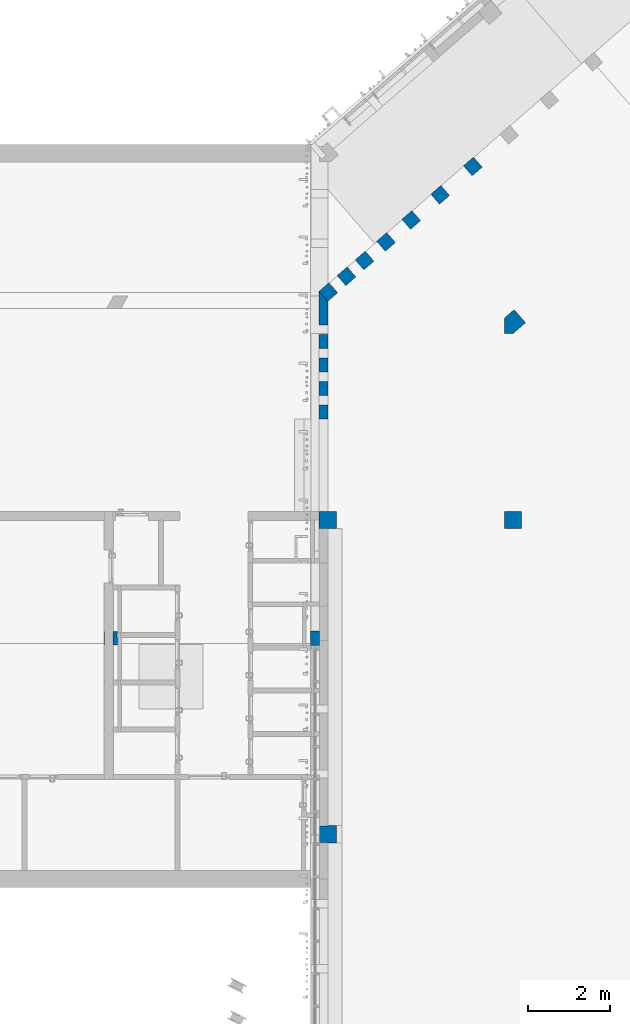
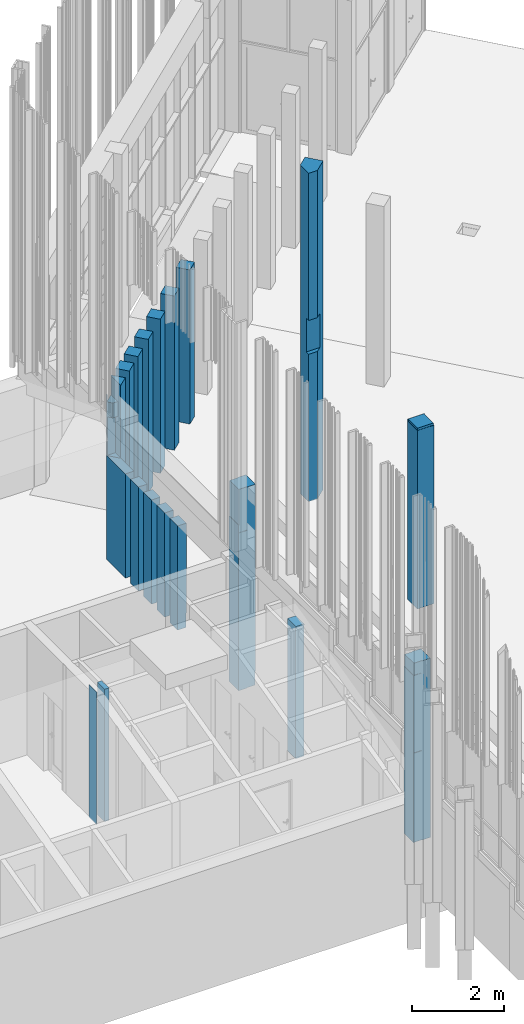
# One storey, part 74 of 390: 18 columns.
"""IFC2X3 building model written with IfcOpenShell, lengths in millimetres."""

import ifcopenshell
import ifcopenshell.guid

model = None  # the IFC model being written
_history = None  # IfcOwnerHistory: only IFC2X3 demands one
_inside = {}  # id of a spatial element -> (the spatial element, [elements in it])
_under = {}  # id of a project, library or spatial element -> (it, [spatial elements below it])
_declared = {}  # id of a project -> (the project, [libraries it declares])
_typed = {}  # id of a type object -> (the type object, [elements of that type])
_made_of = {}  # id of a material, layer set ... -> (it, [elements and type objects made of it])


def new_model(schema):
    """Start an empty IFC model of exactly this schema.

    Asked for "IFC4X3", IfcOpenShell would pick the latest addendum, in which some entities
    have other attributes; the version numbers below select the first issue.
    IFC2X3 requires an IfcOwnerHistory on every rooted entity: one is made here for all.
    """
    global model, _history
    if schema == "IFC4X3":
        model = ifcopenshell.file(schema_version=(4, 3, 0, 0))
    else:
        model = ifcopenshell.file(schema=schema)
    _inside.clear()
    _under.clear()
    _declared.clear()
    _typed.clear()
    _made_of.clear()
    _history = None
    if model.schema == "IFC2X3":
        org = make("IfcOrganization", Name="unknown")
        user = make(
            "IfcPersonAndOrganization",
            ThePerson=make("IfcPerson", FamilyName="unknown"),
            TheOrganization=org,
        )
        app = make(
            "IfcApplication",
            ApplicationDeveloper=org,
            Version="unknown",
            ApplicationFullName="unknown",
            ApplicationIdentifier="unknown",
        )
        _history = make(
            "IfcOwnerHistory",
            OwningUser=user,
            OwningApplication=app,
            ChangeAction="ADDED",
            CreationDate=0,
        )
    return model


def make(cls, **values):
    """One entity of the class cls with the attributes given. An attribute that is None is left unset."""
    return model.create_entity(
        cls, **{name: value for name, value in values.items() if value is not None}
    )


def entity(cls, *values):
    """Any entity or typed value of the class cls, its attributes in the order of the schema. None: left unset."""
    e = model.create_entity(cls)
    for i, value in enumerate(values):
        if value is not None:
            e[i] = value
    return e


def rooted(cls, **values):
    """An entity with a GlobalId (a new one), such as an element, a storey or a relation."""
    return make(cls, GlobalId=ifcopenshell.guid.new(), OwnerHistory=_history, **values)


def si_unit(unit_type, name, prefix=None):
    """IfcSIUnit, for example si_unit("LENGTHUNIT", "METRE", prefix="MILLI")."""
    return make("IfcSIUnit", UnitType=unit_type, Prefix=prefix, Name=name)


def converted_unit(unit_type, name, factor, base, dimensions=None, offset=None):
    """IfcConversionBasedUnit, such as the inch: factor (a typed value) times the base unit."""
    return make(
        "IfcConversionBasedUnit"
        if offset is None
        else "IfcConversionBasedUnitWithOffset",
        ConversionOffset=offset,
        Dimensions=None
        if dimensions is None
        else entity("IfcDimensionalExponents", *dimensions),
        UnitType=unit_type,
        Name=name,
        ConversionFactor=make(
            "IfcMeasureWithUnit", ValueComponent=factor, UnitComponent=base
        ),
    )


def derived_unit(unit_type, elements):
    """IfcDerivedUnit: a product of units, each with its exponent."""
    return make(
        "IfcDerivedUnit",
        Elements=[
            make("IfcDerivedUnitElement", Unit=unit, Exponent=power)
            for unit, power in elements
        ],
        UnitType=unit_type,
    )


def money_unit(currency):
    """IfcMonetaryUnit."""
    return make("IfcMonetaryUnit", Currency=currency)


def assignment(units):
    """IfcUnitAssignment: the units of a project."""
    return None if units is None else make("IfcUnitAssignment", Units=units)


def point(xyz):
    """IfcCartesianPoint."""
    return None if xyz is None else make("IfcCartesianPoint", Coordinates=xyz)


def direction(xyz):
    """IfcDirection."""
    return None if xyz is None else make("IfcDirection", DirectionRatios=xyz)


def frame(location, z_axis=None, x_axis=None):
    """IfcAxis2Placement3D, a coordinate frame: its origin and axes. An axis left out is left unset."""
    return make(
        "IfcAxis2Placement3D",
        Location=point(location),
        Axis=direction(z_axis),
        RefDirection=direction(x_axis),
    )


def origin_with_axes():
    """The frame at (0, 0, 0) with the z axis (0, 0, 1) and the x axis (1, 0, 0) written out."""
    return frame((0.0, 0.0, 0.0), z_axis=(0.0, 0.0, 1.0), x_axis=(1.0, 0.0, 0.0))


def place(relative_to, where):
    """IfcLocalPlacement: puts the frame where relative to a parent placement (None: the world)."""
    return make(
        "IfcLocalPlacement", PlacementRelTo=relative_to, RelativePlacement=where
    )


def context(
    kind, dimensions, precision=None, world=None, true_north=None, identifier=None
):
    """IfcGeometricRepresentationContext, for example the 3D "Model" context."""
    return make(
        "IfcGeometricRepresentationContext",
        ContextIdentifier=identifier,
        ContextType=kind,
        CoordinateSpaceDimension=dimensions,
        Precision=precision,
        WorldCoordinateSystem=world,
        TrueNorth=true_north,
    )


def subcontext(parent, identifier, kind, view, scale=None):
    """IfcGeometricRepresentationSubContext, for example "Body" below "Model"."""
    return make(
        "IfcGeometricRepresentationSubContext",
        ContextIdentifier=identifier,
        ContextType=kind,
        ParentContext=parent,
        TargetScale=scale,
        TargetView=view,
    )


def project(units=None, contexts=None):
    """IfcProject with its units and contexts."""
    return rooted(
        "IfcProject",
        Name="project",
        RepresentationContexts=contexts,
        UnitsInContext=assignment(units),
    )


def spatial(cls, under=None, at=None, **own):
    """A site, building, storey or space (cls), placed at a placement, below another one or the project."""
    s = rooted(cls, ObjectPlacement=at, **own)
    if under is not None:
        _under.setdefault(under.id(), (under, []))[1].append(s)
    return s


def faces_of(points, faces, orient=None, outer=None):
    """IfcFace entities. A face is a list of loops; a loop is a list of indices into points, from 0.

    orient and outer hold one flag for each loop. By default every Orientation is true, the
    first loop of a face is its IfcFaceOuterBound and the others are IfcFaceBound.
    """
    made = []
    for i, loops in enumerate(faces):
        bounds = []
        for j, loop in enumerate(loops):
            is_outer = j == 0 if outer is None else outer[i][j]
            bounds.append(
                make(
                    "IfcFaceOuterBound" if is_outer else "IfcFaceBound",
                    Bound=make("IfcPolyLoop", Polygon=[points[k] for k in loop]),
                    Orientation=True if orient is None else orient[i][j],
                )
            )
        made.append(make("IfcFace", Bounds=bounds))
    return made


def faceted_brep(points, faces, orient=None, outer=None, voids=None):
    """IfcFacetedBrep: a solid bounded by flat faces; with voids (closed shells), ...WithVoids."""
    shared = [point(p) for p in points]
    hull = make("IfcClosedShell", CfsFaces=faces_of(shared, faces, orient, outer))
    if voids is None:
        return make("IfcFacetedBrep", Outer=hull)
    return make(
        "IfcFacetedBrepWithVoids",
        Outer=hull,
        Voids=[
            make(cls, CfsFaces=faces_of(shared, fs, o, b)) for cls, fs, o, b in voids
        ],
    )


def shape(context_of_items, identifier, shape_type, items):
    """IfcShapeRepresentation: the items that make up one representation, for example the "Body"."""
    return make(
        "IfcShapeRepresentation",
        ContextOfItems=context_of_items,
        RepresentationIdentifier=identifier,
        RepresentationType=shape_type,
        Items=items,
    )


def material(Name=None, Category=None):
    """IfcMaterial."""
    return make("IfcMaterial", Name=Name, Category=Category)


def material_list(materials):
    """IfcMaterialList."""
    return make("IfcMaterialList", Materials=materials)


def made_of(thing, what):
    """Note that an element or type object is made of a material, layer set ...; save() writes the relation."""
    if what is not None:
        _made_of.setdefault(what.id(), (what, []))[1].append(thing)
    return thing


def type_object(cls, material=None, **own):
    """A type object (cls), such as IfcWallType, which elements share."""
    return made_of(rooted(cls, **own), material)


def element(
    cls,
    number,
    at=None,
    inside=None,
    cuts=None,
    type_object=None,
    material=None,
    context=None,
    identifier="Body",
    shape_type=None,
    held_by="IfcProductDefinitionShape",
    body=None,
    shapes=None,
    **own,
):
    """One element of the class cls, such as IfcWall. Its Tag is "e" and its number.

    at: its placement. inside: the storey or other place that contains it. cuts: it is an
    opening in that element (IfcRelVoidsElement). A single representation is given by context,
    identifier, shape_type and body (its items); several are given by shapes. held_by: the class
    of the entity that holds the representations. save() writes the other relations.
    """
    e = rooted(cls, Tag="e%d" % number, ObjectPlacement=at, **own)
    if body is not None:
        shapes = [shape(context, identifier, shape_type, body)]
    if shapes is not None:
        e.Representation = make(held_by, Representations=shapes)
    if inside is not None:
        _inside.setdefault(inside.id(), (inside, []))[1].append(e)
    if cuts is not None:
        rooted(
            "IfcRelVoidsElement", RelatingBuildingElement=cuts, RelatedOpeningElement=e
        )
    if type_object is not None:
        _typed.setdefault(type_object.id(), (type_object, []))[1].append(e)
    return made_of(e, material)


def aggregate(whole, parts):
    """IfcRelAggregates: a whole, such as a stair, and the parts it consists of."""
    return rooted("IfcRelAggregates", RelatingObject=whole, RelatedObjects=parts)


def save(model, path):
    """Write the relations noted so far, then the file.

    IfcRelAggregates (storeys below a building ...), IfcRelContainedInSpatialStructure (elements
    in a storey), IfcRelDefinesByType, IfcRelAssociatesMaterial and IfcRelDeclares: one each for
    every whole, place, type object, material and project.
    """
    for whole, parts in _under.values():
        aggregate(whole, parts)
    for where, things in _inside.values():
        rooted(
            "IfcRelContainedInSpatialStructure",
            RelatedElements=things,
            RelatingStructure=where,
        )
    for kind, things in _typed.values():
        rooted("IfcRelDefinesByType", RelatedObjects=things, RelatingType=kind)
    for what, things in _made_of.values():
        rooted("IfcRelAssociatesMaterial", RelatedObjects=things, RelatingMaterial=what)
    for by, libraries in _declared.values():
        rooted("IfcRelDeclares", RelatingContext=by, RelatedDefinitions=libraries)
    model.write(path)


model = new_model("IFC2X3")

# Units and contexts
model_context = context("Model", 3, precision=1e-05, world=origin_with_axes(), true_north=direction((0.0, 1.0)))
body_context = subcontext(model_context, "Body", "Model", "MODEL_VIEW")
ifc_project = project(units=[si_unit("LENGTHUNIT", "METRE", prefix="MILLI"), si_unit("AREAUNIT", "SQUARE_METRE"), si_unit("VOLUMEUNIT", "CUBIC_METRE"), converted_unit("PLANEANGLEUNIT", "DEGREE", entity("IfcPlaneAngleMeasure", 0.0174532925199), si_unit("PLANEANGLEUNIT", "RADIAN"), dimensions=[0, 0, 0, 0, 0, 0, 0]), si_unit("SOLIDANGLEUNIT", "STERADIAN"), money_unit("EUR"), converted_unit("TIMEUNIT", "Year", entity("IfcTimeMeasure", 31556926.0), si_unit("TIMEUNIT", "SECOND"), dimensions=[0, 0, 1, 0, 0, 0, 0]), si_unit("MASSUNIT", "GRAM", prefix="KILO"), si_unit("THERMODYNAMICTEMPERATUREUNIT", "DEGREE_CELSIUS"), si_unit("LUMINOUSINTENSITYUNIT", "LUMEN"), si_unit("ENERGYUNIT", "JOULE", prefix="MEGA"), derived_unit("THERMALCONDUCTANCEUNIT", [(si_unit("POWERUNIT", "WATT"), 1), (si_unit("LENGTHUNIT", "METRE"), -1), (si_unit("THERMODYNAMICTEMPERATUREUNIT", "KELVIN"), -1)]), derived_unit("SPECIFICHEATCAPACITYUNIT", [(si_unit("ENERGYUNIT", "JOULE"), 1), (si_unit("MASSUNIT", "GRAM", prefix="KILO"), -1), (si_unit("THERMODYNAMICTEMPERATUREUNIT", "KELVIN"), -1)]), derived_unit("MASSDENSITYUNIT", [(si_unit("MASSUNIT", "GRAM", prefix="KILO"), 1), (si_unit("VOLUMEUNIT", "CUBIC_METRE"), -1)])], contexts=[model_context])

# Site, building, storey
site_placement = place(None, origin_with_axes())
site = spatial("IfcSite", under=ifc_project, at=site_placement, Name="Site", CompositionType="ELEMENT")
building_placement = place(site_placement, origin_with_axes())
building = spatial("IfcBuilding", under=site, at=building_placement, Name="Building", CompositionType="ELEMENT")
storey_placement = place(building_placement, origin_with_axes())
storey = spatial("IfcBuildingStorey", under=building, at=storey_placement, Name="1 korrus", CompositionType="ELEMENT", Elevation=0.0)

# Columns
ifc_material_1 = material(Name="Betoon - Konstuktsioon")
column_type_1 = type_object("IfcColumnType", Name="Post", PredefinedType="NOTDEFINED")
column_1_placement = place(storey_placement, frame((127185.497079, 71828.9918312, 8715.0), z_axis=(0.0, 0.0, 1.0), x_axis=(1.0, 0.0, 0.0)))
element("IfcColumn", 1, at=column_1_placement, inside=storey, type_object=column_type_1, material=ifc_material_1, Name="Betoon - Konstuktsioon", ObjectType="Betoon - Konstuktsioon 8735", context=body_context, shape_type="Brep", body=[
    faceted_brep([(339.369606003, 103.361433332, -3915.0), (339.369606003, 103.361433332, -4815.0), (220.465878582, 0.0, -4815.0), (220.465878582, 0.0, -8735.0), (514.802607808, 255.863015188, -8735.0), (514.802607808, 255.863015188, 0.0), (220.465878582, 0.0, 0.0), (220.465878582, 0.0, -3915.0), (0.0, 103.351120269, -3915.0), (0.0, 103.351120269, -4815.0), (0.0, 0.0, -4815.0), (0.0, 0.0, -8735.0), (0.0, 364.865799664, -8735.0), (239.253654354, 572.845828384, -8735.0), (239.253654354, 572.845828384, 0.0), (0.0, 364.865799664, 0.0), (0.0, 0.0, 0.0), (0.0, 0.0, -3915.0)], [[[0, 1, 2, 3, 4, 5, 6, 7]], [[0, 8, 9, 1]], [[10, 2, 1, 9]], [[3, 2, 10, 11]], [[4, 3, 11, 12, 13]], [[14, 5, 4, 13]], [[14, 15, 16, 6, 5]], [[16, 17, 7, 6]], [[8, 0, 7, 17]], [[9, 8, 17, 16, 15, 12, 11, 10]], [[15, 14, 13, 12]]]),
])
ifc_material_2 = material(Name="Krohv - Lubjakivi")
ifc_material_list_1 = material_list([ifc_material_1, ifc_material_2])
column_2_placement = place(storey_placement, frame((127395.001073, 67300.0000109, 0.0), z_axis=(0.0, 0.0, 1.0), x_axis=(1.0, -8.97950352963e-09, 0.0)))
element("IfcColumn", 2, at=column_2_placement, inside=storey, type_object=column_type_1, material=ifc_material_list_1, Name="Betoon - Konstuktsioon", ObjectType="Betoon - Konstuktsioon 400 x 400", context=body_context, shape_type="Brep", body=[
    faceted_brep([(-199.999998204, -200.000001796, 0.0), (200.000001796, -199.999998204, 0.0), (200.000001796, -199.999998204, 4800.0), (-199.999998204, -200.000001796, 4800.0), (-200.000001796, 199.999998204, 0.0), (199.999998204, 200.000001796, 0.0), (199.999998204, 200.000001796, 4800.0), (-200.000001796, 199.999998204, 4800.0)], [[[0, 1, 2, 3]], [[0, 4, 5, 1]], [[1, 5, 6, 2]], [[3, 2, 6, 7]], [[4, 0, 3, 7]], [[5, 4, 7, 6]]]),
    faceted_brep([(-210.000001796, 200.000016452, 4800.0), (-200.000001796, 200.000016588, 4800.0), (199.999998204, 200.00002202, 4800.0), (209.999998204, 200.000022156, 4800.0), (209.999998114, 210.000001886, 4800.0), (-210.000001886, 209.999998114, 4800.0), (-200.000001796, 199.999997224, 4745.0), (-210.000001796, 199.999997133, 4745.0), (199.999998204, 200.000000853, 4745.0), (-200.000001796, 199.999998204, 0.0), (199.999998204, 200.000001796, 0.0), (209.999998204, 200.000000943, 4745.0), (210.000001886, -209.999998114, 4745.0), (210.000001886, -209.999998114, 0.0), (209.999998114, 210.000001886, 0.0), (-210.000001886, 209.999998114, 0.0), (-209.999998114, -210.000001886, 0.0), (-209.999998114, -210.000001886, 4745.0), (200.000001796, -199.999998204, 4745.0), (-199.999998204, -200.000001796, 4745.0), (-199.999998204, -200.000001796, 0.0), (200.000001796, -199.999998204, 0.0)], [[[0, 1, 2, 3, 4, 5]], [[6, 1, 0, 7]], [[8, 2, 1, 6, 9, 10]], [[11, 3, 2, 8]], [[11, 12, 13, 14, 4, 3]], [[4, 14, 15, 5]], [[7, 0, 5, 15, 16, 17]], [[12, 11, 8, 18, 19, 6, 7, 17]], [[6, 19, 20, 9]], [[13, 16, 15, 14], [9, 20, 21, 10]], [[18, 8, 10, 21]], [[12, 17, 16, 13]], [[19, 18, 21, 20]]]),
])
column_3_placement = place(storey_placement, frame((122799.999995, 71060.0000103, -600.0), z_axis=(0.0, 0.0, 1.0), x_axis=(0.0, -1.0, 0.0)))
element("IfcColumn", 3, at=column_3_placement, inside=storey, type_object=column_type_1, material=ifc_material_list_1, Name="Betoon - Konstuktsioon", ObjectType="Betoon - Konstuktsioon 320 x 200", context=body_context, shape_type="Brep", body=[
    faceted_brep([(-160.0, -100.0, 0.0), (160.0, -100.0, 0.0), (160.0, -100.0, 2770.23676118), (-160.0, -100.0, 2770.23676118), (-160.0, 100.0, 0.0), (160.0, 100.0, 0.0), (160.0, 100.0, 2770.23676118), (-160.0, 100.0, 2770.23676118)], [[[0, 1, 2, 3]], [[0, 4, 5, 1]], [[1, 5, 6, 2]], [[3, 2, 6, 7]], [[4, 0, 3, 7]], [[5, 4, 7, 6]]]),
    faceted_brep([(170.0, 110.0, 380.0), (-170.0, 110.0, 380.0), (-170.0, 110.0, 2770.23676118), (170.0, 110.0, 2770.23676118), (-170.0, 100.000003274, 380.0), (170.0, 100.000003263, 380.0), (160.0, 100.000003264, 380.0), (-160.0, 100.000003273, 380.0), (-170.0, 100.000003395, 0.0), (-170.0, -110.0, 0.0), (-170.0, -110.0, 2770.23676118), (170.0, -110.0, 2770.23676118), (160.0, -100.0, 2770.23676118), (-160.0, -100.0, 2770.23676118), (-160.0, 100.0, 2770.23676118), (160.0, 100.0, 2770.23676118), (170.0, -110.0, 0.0), (170.0, 100.000003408, 0.0), (160.0, 100.000003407, 0.0), (-160.0, 100.000003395, 0.0), (-160.0, -100.0, 0.0), (160.0, -100.0, 0.0)], [[[0, 1, 2, 3]], [[4, 1, 0, 5, 6, 7]], [[4, 8, 9, 10, 2, 1]], [[2, 10, 11, 3], [12, 13, 14, 15]], [[5, 0, 3, 11, 16, 17]], [[6, 5, 17, 18]], [[7, 6, 15, 14]], [[4, 7, 19, 8]], [[18, 17, 16, 9, 8, 19, 20, 21]], [[10, 9, 16, 11]], [[12, 21, 20, 13]], [[7, 14, 13, 20, 19]], [[6, 18, 21, 12, 15]]]),
])
column_4_placement = place(storey_placement, frame((122799.999995, 72437.0089763, -600.0), z_axis=(0.0, 0.0, 1.0), x_axis=(0.0, -1.0, 0.0)))
element("IfcColumn", 4, at=column_4_placement, inside=storey, type_object=column_type_1, material=ifc_material_list_1, Name="Betoon - Konstuktsioon", ObjectType="Betoon - Konstuktsioon 794 x 200", context=body_context, shape_type="Brep", body=[
    faceted_brep([(-165.555022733, 100.000003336, 0.0), (-165.555022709, 100.000003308, 380.0), (-165.555019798, 99.9999999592, 2770.23676118), (397.008965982, 100.0, 2770.23676118), (397.008965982, 100.0, 0.0), (-165.501899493, 99.9388920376, 2770.23676118), (-165.501899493, 99.9388920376, 0.0), (-395.505286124, -100.000000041, 2770.23676118), (397.008965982, -100.0, 2770.23676118), (397.008965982, -100.0, 0.0), (-395.505286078, -100.0, 0.0)], [[[0, 1, 2, 3, 4]], [[5, 2, 1, 0, 6]], [[5, 7, 8, 3, 2]], [[8, 9, 4, 3]], [[6, 0, 4, 9, 10]], [[7, 5, 6, 10]], [[7, 10, 9, 8]]]),
    faceted_brep([(-395.505286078, -100.0, 0.0), (-395.505286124, -100.000000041, 2770.23676118), (397.008965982, -100.0, 2770.23676118), (397.008965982, -100.0, 0.0), (-407.008965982, -109.999996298, 2770.23676118), (-407.008965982, -109.999996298, 0.0), (-174.247887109, 109.99999996, 2770.23676118), (-165.555019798, 99.9999999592, 2770.23676118), (397.008965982, 100.0, 2770.23676118), (407.008965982, -110.0, 2770.23676118), (407.008965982, 110.0, 2770.23676118), (397.008965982, 100.000003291, 380.0), (397.008965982, 100.000003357, 0.0), (407.008965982, 100.000003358, 0.0), (407.008965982, -110.0, 0.0), (-174.247887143, 110.0, 380.0), (-165.555022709, 100.000003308, 380.0), (407.008965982, 100.000003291, 380.0), (407.008965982, 110.0, 380.0)], [[[0, 1, 2, 3]], [[4, 1, 0, 5]], [[6, 7, 8, 2, 1, 4, 9, 10]], [[8, 11, 12, 3, 2]], [[5, 0, 3, 12, 13, 14]], [[4, 5, 14, 9]], [[7, 6, 15, 16]], [[7, 16, 11, 8]], [[13, 17, 18, 10, 9, 14]], [[15, 6, 10, 18]], [[12, 11, 17, 13]], [[16, 15, 18, 17, 11]]]),
])
column_5_placement = place(storey_placement, frame((122799.999995, 71630.0000103, -600.0), z_axis=(0.0, 0.0, 1.0), x_axis=(0.0, -1.0, 0.0)))
element("IfcColumn", 5, at=column_5_placement, inside=storey, type_object=column_type_1, material=ifc_material_list_1, Name="Betoon - Konstuktsioon", ObjectType="Betoon - Konstuktsioon 320 x 200", context=body_context, shape_type="Brep", body=[
    faceted_brep([(-160.0, -100.0, 0.0), (160.0, -100.0, 0.0), (160.0, -100.0, 2770.23676118), (-160.0, -100.0, 2770.23676118), (-160.0, 100.0, 0.0), (160.0, 100.0, 0.0), (160.0, 100.0, 2770.23676118), (-160.0, 100.0, 2770.23676118)], [[[0, 1, 2, 3]], [[0, 4, 5, 1]], [[1, 5, 6, 2]], [[3, 2, 6, 7]], [[4, 0, 3, 7]], [[5, 4, 7, 6]]]),
    faceted_brep([(170.0, 110.0, 380.0), (-170.0, 110.0, 380.0), (-170.0, 110.0, 2770.23676118), (170.0, 110.0, 2770.23676118), (-170.0, 100.000003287, 380.0), (170.0, 100.000003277, 380.0), (160.0, 100.000003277, 380.0), (-160.0, 100.000003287, 380.0), (-170.0, 100.00000337, 0.0), (-170.0, -110.0, 0.0), (-170.0, -110.0, 2770.23676118), (170.0, -110.0, 2770.23676118), (160.0, -100.0, 2770.23676118), (-160.0, -100.0, 2770.23676118), (-160.0, 100.0, 2770.23676118), (160.0, 100.0, 2770.23676118), (170.0, -110.0, 0.0), (170.0, 100.000003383, 0.0), (160.0, 100.000003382, 0.0), (-160.0, 100.00000337, 0.0), (-160.0, -100.0, 0.0), (160.0, -100.0, 0.0)], [[[0, 1, 2, 3]], [[4, 1, 0, 5, 6, 7]], [[4, 8, 9, 10, 2, 1]], [[2, 10, 11, 3], [12, 13, 14, 15]], [[5, 0, 3, 11, 16, 17]], [[6, 5, 17, 18]], [[7, 6, 15, 14]], [[4, 7, 19, 8]], [[18, 17, 16, 9, 8, 19, 20, 21]], [[10, 9, 16, 11]], [[12, 21, 20, 13]], [[7, 14, 13, 20, 19]], [[6, 18, 21, 12, 15]]]),
])
column_6_placement = place(storey_placement, frame((122799.999996, 69920.0000103, -600.0), z_axis=(0.0, 0.0, 1.0), x_axis=(0.0, -1.0, 0.0)))
element("IfcColumn", 6, at=column_6_placement, inside=storey, type_object=column_type_1, material=ifc_material_list_1, Name="Betoon - Konstuktsioon", ObjectType="Betoon - Konstuktsioon 320 x 200", context=body_context, shape_type="Brep", body=[
    faceted_brep([(-160.0, -100.0, 0.0), (160.0, -100.0, 0.0), (160.0, -100.0, 2770.23676118), (-160.0, -100.0, 2770.23676118), (-160.0, 100.0, 0.0), (160.0, 100.0, 0.0), (160.0, 100.0, 2770.23676118), (-160.0, 100.0, 2770.23676118)], [[[0, 1, 2, 3]], [[0, 4, 5, 1]], [[1, 5, 6, 2]], [[3, 2, 6, 7]], [[4, 0, 3, 7]], [[5, 4, 7, 6]]]),
    faceted_brep([(170.0, 110.0, 380.0), (-170.0, 110.0, 380.0), (-170.0, 110.0, 2770.23676118), (170.0, 110.0, 2770.23676118), (-170.0, 100.000002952, 380.0), (170.0, 100.000002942, 380.0), (160.0, 100.000002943, 380.0), (-160.0, 100.000002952, 380.0), (-170.0, 100.000003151, 0.0), (-170.0, -110.0, 0.0), (-170.0, -110.0, 2770.23676118), (170.0, -110.0, 2770.23676118), (160.0, -100.0, 2770.23676118), (-160.0, -100.0, 2770.23676118), (-160.0, 100.0, 2770.23676118), (160.0, 100.0, 2770.23676118), (170.0, -110.0, 0.0), (170.0, 100.000003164, 0.0), (160.0, 100.000003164, 0.0), (-160.0, 100.000003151, 0.0), (-160.0, -100.0, 0.0), (160.0, -100.0, 0.0)], [[[0, 1, 2, 3]], [[4, 1, 0, 5, 6, 7]], [[4, 8, 9, 10, 2, 1]], [[2, 10, 11, 3], [12, 13, 14, 15]], [[5, 0, 3, 11, 16, 17]], [[6, 5, 17, 18]], [[7, 6, 15, 14]], [[4, 7, 19, 8]], [[18, 17, 16, 9, 8, 19, 20, 21]], [[10, 9, 16, 11]], [[12, 21, 20, 13]], [[7, 14, 13, 20, 19]], [[6, 18, 21, 12, 15]]]),
])
column_7_placement = place(storey_placement, frame((122799.999995, 70490.0000103, -600.0), z_axis=(0.0, 0.0, 1.0), x_axis=(0.0, -1.0, 0.0)))
element("IfcColumn", 7, at=column_7_placement, inside=storey, type_object=column_type_1, material=ifc_material_list_1, Name="Betoon - Konstuktsioon", ObjectType="Betoon - Konstuktsioon 320 x 200", context=body_context, shape_type="Brep", body=[
    faceted_brep([(-160.0, -100.0, 0.0), (160.0, -100.0, 0.0), (160.0, -100.0, 2770.23676118), (-160.0, -100.0, 2770.23676118), (-160.0, 100.0, 0.0), (160.0, 100.0, 0.0), (160.0, 100.0, 2770.23676118), (-160.0, 100.0, 2770.23676118)], [[[0, 1, 2, 3]], [[0, 4, 5, 1]], [[1, 5, 6, 2]], [[3, 2, 6, 7]], [[4, 0, 3, 7]], [[5, 4, 7, 6]]]),
    faceted_brep([(170.0, 110.0, 380.0), (-170.0, 110.0, 380.0), (-170.0, 110.0, 2770.23676118), (170.0, 110.0, 2770.23676118), (-170.0, 100.00000326, 380.0), (170.0, 100.00000325, 380.0), (160.0, 100.00000325, 380.0), (-160.0, 100.00000326, 380.0), (-170.0, 100.00000342, 0.0), (-170.0, -110.0, 0.0), (-170.0, -110.0, 2770.23676118), (170.0, -110.0, 2770.23676118), (160.0, -100.0, 2770.23676118), (-160.0, -100.0, 2770.23676118), (-160.0, 100.0, 2770.23676118), (160.0, 100.0, 2770.23676118), (170.0, -110.0, 0.0), (170.0, 100.000003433, 0.0), (160.0, 100.000003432, 0.0), (-160.0, 100.00000342, 0.0), (-160.0, -100.0, 0.0), (160.0, -100.0, 0.0)], [[[0, 1, 2, 3]], [[4, 1, 0, 5, 6, 7]], [[4, 8, 9, 10, 2, 1]], [[2, 10, 11, 3], [12, 13, 14, 15]], [[5, 0, 3, 11, 16, 17]], [[6, 5, 17, 18]], [[7, 6, 15, 14]], [[4, 7, 19, 8]], [[18, 17, 16, 9, 8, 19, 20, 21]], [[10, 9, 16, 11]], [[12, 21, 20, 13]], [[7, 14, 13, 20, 19]], [[6, 18, 21, 12, 15]]]),
])
column_8_placement = place(storey_placement, frame((122899.999994, 67300.0000114, -600.0), z_axis=(0.0, 0.0, 1.0), x_axis=(1.0, -8.97950352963e-09, 0.0)))
element("IfcColumn", 8, at=column_8_placement, inside=storey, type_object=column_type_1, material=ifc_material_list_1, Name="Betoon - Konstuktsioon", ObjectType="Betoon - Konstuktsioon 400 x 400", context=body_context, shape_type="Brep", body=[
    faceted_brep([(-199.999998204, -200.000001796, 0.0), (200.000001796, -199.999998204, 0.0), (200.000001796, -199.999998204, 5345.0), (-199.999998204, -200.000001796, 5345.0), (-200.000001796, 199.999998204, 0.0), (199.999998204, 200.000001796, 0.0), (199.999998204, 200.000001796, 5345.0), (-200.000001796, 199.999998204, 5345.0)], [[[0, 1, 2, 3]], [[0, 4, 5, 1]], [[1, 5, 6, 2]], [[3, 2, 6, 7]], [[4, 0, 3, 7]], [[5, 4, 7, 6]]]),
    faceted_brep([(210.000001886, -209.999998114, 380.0), (209.999998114, 210.000001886, 380.0), (209.999998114, 210.000001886, 5345.0), (210.000001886, -209.999998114, 5345.0), (2.77850631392e-06, 209.999986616, 380.0), (6.53732001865e-06, -210.0, 380.0), (6.44782005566e-06, -200.0, 380.0), (200.000001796, -199.999998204, 380.0), (199.999998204, 200.000001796, 380.0), (2.86800627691e-06, 200.0, 380.0), (3.15239390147e-06, 210.0, 0.0), (-210.000001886, 209.999998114, 0.0), (-210.000001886, 209.99998473, 4395.0), (-200.000000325, 209.99998482, 4395.0), (-200.000000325, 209.99998482, 4195.0), (-3.24931193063e-07, 209.999986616, 4195.0), (2.06739514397e-06, 209.999986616, 5024.99965835), (2.06739514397e-06, 210.0, 5345.0), (2.15719353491e-06, 200.0, 5345.0), (199.999998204, 200.000001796, 5345.0), (200.000001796, -199.999998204, 5345.0), (5.74898706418e-06, -200.0, 5345.0), (5.83878545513e-06, -210.0, 5345.0), (3.44645911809e-06, -210.0, 4195.0), (-199.999996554, -210.000001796, 4195.0), (-199.999996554, -210.000001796, 4395.0), (-209.999998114, -210.000001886, 4395.0), (-209.999998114, -210.000001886, 0.0), (6.93974300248e-06, -210.0, 0.0), (6.84956091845e-06, -200.0, 0.0), (-199.999998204, -200.000001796, 0.0), (-199.999996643, -200.000001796, 4195.0), (3.35666072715e-06, -200.0, 4195.0), (-2.35132802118e-07, 200.0, 4195.0), (-200.000000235, 199.999998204, 4195.0), (-200.000001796, 199.999998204, 0.0), (3.2425759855e-06, 200.0, 0.0), (-199.999996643, -200.000001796, 4395.0), (-200.000000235, 199.999998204, 4395.0)], [[[0, 1, 2, 3]], [[4, 1, 0, 5, 6, 7, 8, 9]], [[4, 10, 11, 12, 13, 14, 15, 16, 17, 2, 1]], [[2, 17, 18, 19, 20, 21, 22, 3]], [[5, 0, 3, 22, 23, 24, 25, 26, 27, 28]], [[6, 5, 28, 29]], [[6, 29, 30, 31, 32, 21, 20, 7]], [[8, 7, 20, 19]], [[9, 8, 19, 18, 33, 34, 35, 36]], [[4, 9, 36, 10]], [[29, 28, 27, 11, 10, 36, 35, 30]], [[27, 26, 12, 11]], [[37, 38, 13, 12, 26, 25]], [[34, 14, 13, 38]], [[33, 15, 14, 34]], [[33, 18, 17, 16, 15]], [[23, 22, 21, 32]], [[23, 32, 31, 24]], [[24, 31, 37, 25]], [[35, 34, 38, 37, 31, 30]]]),
])
column_9_placement = place(storey_placement, frame((122899.999997, 59675.0000122, -20.0), z_axis=(0.0, 0.0, 1.0), x_axis=(1.0, -8.97950352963e-09, 0.0)))
element("IfcColumn", 9, at=column_9_placement, inside=storey, type_object=column_type_1, material=ifc_material_list_1, Name="Betoon - Konstuktsioon", ObjectType="Betoon - Konstuktsioon 400 x 400", context=body_context, shape_type="Brep", body=[
    faceted_brep([(-199.999998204, -200.000001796, 0.0), (200.000001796, -199.999998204, 0.0), (200.000001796, -199.999998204, 4764.99999992), (-199.999998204, -200.000001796, 4764.99999992), (-200.000001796, 199.999998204, 0.0), (199.999998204, 200.000001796, 0.0), (199.999998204, 200.000001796, 4764.99999992), (-200.000001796, 199.999998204, 4764.99999992)], [[[0, 1, 2, 3]], [[0, 4, 5, 1]], [[1, 5, 6, 2]], [[3, 2, 6, 7]], [[4, 0, 3, 7]], [[5, 4, 7, 6]]]),
    faceted_brep([(-199.999997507, -200.000001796, 4444.99965608), (2.49339393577e-06, -200.0, 4444.99965608), (2.49339393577e-06, -200.0, 4764.99999992), (200.000001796, -199.999998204, 4764.99999992), (200.000001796, -199.999998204, 0.0), (3.71613850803e-08, -200.0, 0.0), (3.71613850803e-08, -200.0, 2003.02560869), (-199.999999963, -200.000001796, 2003.02560869), (-199.999999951, -200.000001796, 2380.0), (4.88711293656e-08, -200.0, 2380.0), (4.88711293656e-08, -200.0, 2990.0), (-199.999999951, -200.000001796, 2990.0), (-200.000001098, 199.999998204, 4444.99965619), (-1.09841380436e-06, 200.0, 4444.99965619), (-1.18819798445e-06, 210.0, 4444.9996562), (-210.000001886, 209.999998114, 4444.99965207), (-209.999998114, -210.000001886, 4444.99965207), (2.58319232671e-06, -210.0, 4444.99965608), (2.58319232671e-06, -210.0, 4764.99999992), (-1.18819798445e-06, 210.0, 4764.99999992), (-1.09841380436e-06, 200.0, 4764.99999992), (199.999998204, 200.000001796, 4764.99999992), (210.000001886, -209.999998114, 4764.99999992), (209.999998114, 210.000001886, 4764.99999992), (199.999998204, 200.000001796, 0.0), (-3.54026497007e-06, 200.0, 0.0), (-3.63004915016e-06, 210.0, 0.0), (209.999998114, 210.000001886, 0.0), (210.000001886, -209.999998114, 0.0), (1.26959776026e-07, -210.0, 0.0), (1.26959776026e-07, -210.0, 2003.02560869), (-199.999999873, -210.000001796, 2003.02560869), (-199.999999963, -200.000001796, 0.0), (-200.00000354, 199.999998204, 0.0), (-200.00000354, 199.999998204, 2470.0), (-200.00000354, 199.999998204, 2790.0), (-200.00000354, 199.999998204, 2990.0), (-199.999999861, -210.000001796, 2380.0), (1.38669520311e-07, -210.0, 2380.0), (1.38669520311e-07, -210.0, 2990.0), (-199.999999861, -210.000001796, 2990.0), (-3.54027918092e-06, 200.0, 2990.0), (-3.54027918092e-06, 200.0, 2790.0), (-3.54026497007e-06, 200.0, 2470.0), (-3.63004915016e-06, 210.0, 2470.0), (-200.00000363, 209.999998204, 2470.0), (-200.00000363, 209.999998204, 0.0), (-210.000001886, 209.999998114, 0.0), (-200.00000363, 209.999998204, 2790.0), (-3.63006336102e-06, 210.0, 2790.0), (-3.63006336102e-06, 210.0, 2990.0), (-200.00000363, 209.999998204, 2990.0), (-209.999998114, -210.000001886, 0.0), (-199.999999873, -210.000001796, 0.0)], [[[0, 1, 2, 3, 4, 5, 6, 7, 8, 9, 10, 11]], [[12, 13, 14, 15, 16, 17, 1, 0]], [[18, 2, 1, 17]], [[19, 20, 21, 3, 2, 18, 22, 23]], [[21, 24, 4, 3]], [[25, 26, 27, 28, 29, 5, 4, 24]], [[6, 5, 29, 30]], [[7, 6, 30, 31]], [[12, 0, 11, 8, 7, 32, 33, 34, 35, 36]], [[9, 8, 37, 38]], [[10, 9, 38, 39]], [[11, 10, 39, 40]], [[13, 12, 36, 41, 42, 35, 34, 43, 25, 24, 21, 20]], [[20, 19, 14, 13]], [[14, 19, 23, 27, 26, 44, 45, 46, 47, 15], [48, 49, 50, 51]], [[16, 15, 47, 52]], [[17, 16, 52, 53, 31, 30, 29, 28, 22, 18], [37, 40, 39, 38]], [[22, 28, 27, 23]], [[44, 26, 25, 43]], [[32, 7, 31, 53]], [[8, 11, 40, 37]], [[46, 33, 32, 53, 52, 47]], [[46, 45, 34, 33]], [[48, 51, 36, 35]], [[51, 50, 41, 36]], [[50, 49, 42, 41]], [[49, 48, 35, 42]], [[45, 44, 43, 34]]]),
])
ifc_material_3 = material(Name="Teras (musta värvi)")
ifc_material_list_2 = material_list([ifc_material_3, ifc_material_2, ifc_material_2, ifc_material_2])
column_10_placement = place(storey_placement, frame((117640.000002, 64428.5685272, -620.0), z_axis=(0.0, 0.0, 1.0), x_axis=(1.0, 0.0, 0.0)))
element("IfcColumn", 10, at=column_10_placement, inside=storey, type_object=column_type_1, material=ifc_material_list_2, Name="Teras (musta värvi)", ObjectType="Teras (musta värvi) 300 x 300", context=body_context, shape_type="Brep", body=[
    faceted_brep([(49.9999913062, 150.0, 0.0), (49.999989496, 150.0, 3520.23675948), (150.0, 150.0, 3520.2367594), (150.0, 150.0, 0.0), (49.9999892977, -150.0, 3520.23675952), (49.9999913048, -150.0, 0.0), (150.0, -150.0, 3520.2367594), (150.0, -150.0, 0.0)], [[[0, 1, 2, 3]], [[4, 1, 0, 5]], [[1, 4, 6, 2]], [[6, 7, 3, 2]], [[5, 0, 3, 7]], [[4, 5, 7, 6]]]),
    faceted_brep([(-150.000007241, 150.0, 3520.23675948), (-150.000007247, 160.0, 3520.23675948), (-160.0, 160.0, 3520.2367594), (-160.0, -160.0, 3520.2367594), (-150.000007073, -160.0, 3520.23675952), (-150.000007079, -150.0, 3520.23675952), (-150.000008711, 160.0, 0.0), (-150.000008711, 150.0, 0.0), (-160.0, 160.0, 0.0), (-160.0, -160.0, 0.0), (-150.000008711, -160.0, 0.0), (-150.000008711, -150.0, 0.0)], [[[0, 1, 2, 3, 4, 5]], [[6, 1, 0, 7]], [[1, 6, 8, 2]], [[2, 8, 9, 3]], [[10, 4, 3, 9]], [[11, 5, 4, 10]], [[7, 0, 5, 11]], [[6, 7, 11, 10, 9, 8]]]),
    faceted_brep([(49.9999913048, -150.0, 0.0), (49.9999892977, -150.0, 3520.23675952), (150.0, -150.0, 3520.2367594), (150.0, -150.0, 0.0), (49.9999892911, -160.0, 3520.23675952), (49.9999913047, -160.0, 0.0), (160.0, -160.0, 3520.2367594), (160.0, 31.4314833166, 3520.23675989), (149.999990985, 31.4314833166, 3520.23675989), (149.999990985, 31.4314833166, 0.0), (160.0, 31.4314833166, 0.0), (160.0, -160.0, 0.0)], [[[0, 1, 2, 3]], [[4, 1, 0, 5]], [[1, 4, 6, 7, 8, 2]], [[8, 9, 3, 2]], [[5, 0, 3, 9, 10, 11]], [[4, 5, 11, 6]], [[10, 7, 6, 11]], [[8, 7, 10, 9]]]),
    faceted_brep([(49.9999913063, 160.0, 0.0), (49.9999895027, 160.0, 3520.23675948), (160.0, 160.0, 3520.2367594), (160.0, 160.0, 0.0), (49.999989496, 150.0, 3520.23675948), (49.9999913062, 150.0, 0.0), (150.0, 150.0, 3520.2367594), (149.999990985, 131.431483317, 3520.23675989), (160.0, 131.431483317, 3520.23675989), (160.0, 131.431483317, 0.0), (149.999990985, 131.431483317, 0.0), (150.0, 150.0, 0.0)], [[[0, 1, 2, 3]], [[4, 1, 0, 5]], [[1, 4, 6, 7, 8, 2]], [[8, 9, 3, 2]], [[5, 0, 3, 9, 10, 11]], [[4, 5, 11, 6]], [[10, 7, 6, 11]], [[9, 8, 7, 10]]]),
])
ifc_material_list_3 = material_list([ifc_material_3, ifc_material_2])
column_11_placement = place(storey_placement, frame((122600.000007, 64428.5685303, -620.0), z_axis=(0.0, 0.0, 1.0), x_axis=(1.0, 0.0, 0.0)))
element("IfcColumn", 11, at=column_11_placement, inside=storey, type_object=column_type_1, material=ifc_material_list_3, Name="Teras (musta värvi)", ObjectType="Teras (musta värvi) 200 x 340", context=body_context, shape_type="Brep", body=[
    faceted_brep([(-100.0, -170.0, 3520.23675989), (-100.0, -170.0, 0.0), (100.0, -170.0, 0.0), (100.0, -170.0, 3520.23675989), (-100.0, 170.0, 3520.23675989), (-100.0, 170.0, 0.0), (100.0, 170.0, 0.0), (100.0, 170.0, 3520.23675989)], [[[0, 1, 2, 3]], [[4, 5, 1, 0]], [[2, 1, 5, 6]], [[3, 2, 6, 7]], [[4, 0, 3, 7]], [[7, 6, 5, 4]]]),
    faceted_brep([(99.9999878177, -180.0, 3520.23675989), (99.9999878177, -170.0, 3520.23675989), (-100.0, -170.0, 3520.23675989), (-100.0, 170.0, 3520.23675989), (99.9999878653, 170.0, 3520.23675989), (99.9999878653, 180.0, 3520.23675989), (-110.0, 180.0, 3520.23675989), (-110.0, -180.0, 3520.23675989), (99.9999878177, -170.0, 3494.01683805), (99.9999878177, -180.0, 3494.01683805), (-100.0, -170.0, 3494.01683805), (-100.0, -168.568520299, 3494.01683805), (-100.0, -168.568521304, 0.0), (-100.0, 170.0, 0.0), (99.9999878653, 170.0, 0.0), (99.9999878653, 180.0, 0.0), (-110.0, 180.0, 0.0), (-110.000008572, -168.568520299, 3494.01683805), (-110.000008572, -180.0, 3494.01683805), (-110.000008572, -168.568520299, 0.0)], [[[0, 1, 2, 3, 4, 5, 6, 7]], [[8, 1, 0, 9]], [[1, 8, 10, 2]], [[11, 12, 13, 3, 2, 10]], [[14, 4, 3, 13]], [[15, 5, 4, 14]], [[5, 15, 16, 6]], [[17, 18, 7, 6, 16, 19]], [[9, 0, 7, 18]], [[8, 9, 18, 17, 11, 10]], [[12, 11, 17, 19]], [[15, 14, 13, 12, 19, 16]]]),
])
ifc_material_4 = material(Name="GENEERILINE - KONSTRUKTRIOON")
ifc_material_list_4 = material_list([ifc_material_4, ifc_material_2])
column_type_2 = type_object("IfcColumnType", Name="Post (C-profiiliga karkass; puitlaastplaat 12mm; mineraalkrohv 10mm)", PredefinedType="NOTDEFINED")
column_12_placement = place(storey_placement, frame((123357.920308, 73212.6303003, 0.0), z_axis=(0.0, 0.0, 1.0), x_axis=(0.65605902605, -0.754709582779, 0.0)))
element("IfcColumn", 12, at=column_12_placement, inside=storey, type_object=column_type_2, material=ifc_material_list_4, Name="GENEERILINE - KONSTRUKTRIOON", ObjectType="GENEERILINE - KONSTRUKTRIOON 300 x 300", context=body_context, shape_type="Brep", body=[
    faceted_brep([(-150.0, -150.0, 0.0), (150.0, -150.0, 0.0), (150.0, -150.0, 4100.0), (-150.0, -150.0, 4100.0), (-150.0, 150.0, 0.0), (150.0, 150.0, 0.0), (150.0, 150.0, 4100.0), (-150.0, 150.0, 4100.0)], [[[0, 1, 2, 3]], [[0, 4, 5, 1]], [[1, 5, 6, 2]], [[3, 2, 6, 7]], [[4, 0, 3, 7]], [[5, 4, 7, 6]]]),
    faceted_brep([(-160.0, -160.0, 0.0), (160.0, -160.0, 0.0), (160.0, -160.0, 4100.0), (-160.0, -160.0, 4100.0), (-160.0, 160.0, 0.0), (160.0, 160.0, 0.0), (-150.0, -150.0, 0.0), (150.0, -150.0, 0.0), (150.0, 150.0, 0.0), (-150.0, 150.0, 0.0), (160.0, 160.0, 4100.0), (-160.0, 160.0, 4100.0), (-150.0, -150.0, 4100.0), (-150.0, 150.0, 4100.0), (150.0, 150.0, 4100.0), (150.0, -150.0, 4100.0)], [[[0, 1, 2, 3]], [[0, 4, 5, 1], [6, 7, 8, 9]], [[1, 5, 10, 2]], [[3, 2, 10, 11], [12, 13, 14, 15]], [[4, 0, 3, 11]], [[5, 4, 11, 10]], [[7, 6, 12, 15]], [[8, 7, 15, 14]], [[9, 8, 14, 13]], [[6, 9, 13, 12]]]),
])
column_13_placement = place(storey_placement, frame((122915.722976, 72828.2338532, -600.0), z_axis=(0.0, 0.0, 1.0), x_axis=(0.65605902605, -0.754709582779, 0.0)))
element("IfcColumn", 13, at=column_13_placement, inside=storey, type_object=column_type_2, material=ifc_material_list_4, Name="GENEERILINE - KONSTRUKTRIOON", ObjectType="GENEERILINE - KONSTRUKTRIOON 300 x 300", context=body_context, shape_type="Brep", body=[
    faceted_brep([(150.0, -150.0, 380.0), (150.0, 150.0, 380.0), (150.0, 150.0, 4700.0), (150.0, -137.976033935, 4700.0), (150.0, -137.976034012, 2770.23676118), (150.0, -150.0, 2770.23676118), (-150.000170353, 150.0, 380.0), (148.589464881, -150.0, 380.0), (-150.000170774, 109.560008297, 380.0), (-150.0, 150.0, 4700.0), (-150.0, 122.809985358, 4700.0), (-15.667016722, 6.03610538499, 2770.23676118), (-150.0, 122.809985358, 4195.0), (66.9736454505, -65.802325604, 4195.0), (66.9736454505, -65.802325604, 3800.23676118), (-15.667016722, 6.03610538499, 3800.23676118), (-150.0, -150.0, 2770.23676118), (-150.0, -148.496315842, 2770.23676118), (-150.0, -150.0, 0.0), (148.589464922, -150.0, 0.0), (-150.000170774, 109.560008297, 0.0), (-150.0, -148.496315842, 3800.23676118), (-150.0, -150.0, 3800.23676118), (-150.0, -150.0, 4195.0), (-6.21827568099, -150.0, 4195.0), (-6.21827568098, -150.0, 3800.23676118)], [[[0, 1, 2, 3, 4, 5]], [[6, 1, 0, 7, 8]], [[1, 6, 9, 2]], [[9, 10, 3, 2]], [[11, 4, 3, 10, 12, 13, 14, 15]], [[16, 5, 4, 11, 17]], [[7, 0, 5, 16, 18, 19]], [[8, 7, 19, 20]], [[8, 20, 18, 16, 17, 21, 22, 23, 12, 10, 9, 6]], [[24, 13, 12, 23]], [[14, 13, 24, 25]], [[15, 14, 25, 22, 21]], [[17, 11, 15, 21]], [[20, 19, 18]], [[25, 24, 23, 22]]]),
    faceted_brep([(160.0, -159.919026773, 380.0), (160.0, 160.0, 380.0), (160.0, 160.0, 4700.0), (160.0, -159.919031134, 4700.0), (160.0, -159.91903121, 2770.23676118), (160.0, -160.0, 2770.23676118), (160.0, -160.0, 0.0), (160.0, -159.919026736, 0.0), (-150.000170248, 160.0, 380.0), (148.589464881, -150.0, 380.0), (150.0, -150.0, 380.0), (150.0, 150.0, 380.0), (-150.000170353, 150.0, 380.0), (-150.000170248, 160.0, 0.0), (-160.0, 160.0, 0.0), (-160.0, 160.0, 4700.0), (150.0, -150.0, 4700.0), (148.589459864, -150.0, 4700.0), (-160.0, 118.252722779, 4700.0), (-150.0, 109.559855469, 4700.0), (-150.0, 150.0, 4700.0), (150.0, 150.0, 4700.0), (148.589459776, -150.0, 2770.23676118), (-150.0, -150.0, 2770.23676118), (-150.0, -148.496315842, 2770.23676118), (-153.439412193, -152.452906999, 2770.23676118), (-144.757474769, -160.0, 2770.23676118), (-14.9111429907, -160.0, 4195.0), (-144.757474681, -160.0, 4195.0), (-144.757474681, -160.0, 4395.0), (-160.0, -160.0, 4395.0), (-160.0, -160.0, 0.0), (-144.757474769, -160.0, 3800.23676118), (-14.9111429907, -160.0, 3800.23676118), (148.589464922, -150.0, 0.0), (-150.000170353, 150.0, 0.0), (-150.0, -150.0, 0.0), (-160.0, -146.749874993, 4395.0), (-160.0, -146.749874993, 4195.0), (-160.0, 118.252722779, 4195.0), (-150.0, 109.559855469, 4195.0), (-150.0, -150.0, 4195.0), (-150.0, -150.0, 3800.23676118), (-150.0, -148.496315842, 3800.23676118), (-153.439412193, -152.452906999, 3800.23676118), (-6.21827568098, -150.0, 4195.0), (-6.21827568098, -150.0, 3800.23676118)], [[[0, 1, 2, 3, 4, 5, 6, 7]], [[8, 1, 0, 9, 10, 11, 12]], [[8, 13, 14, 15, 2, 1]], [[16, 17, 3, 2, 15, 18, 19, 20, 21]], [[22, 4, 3, 17]], [[4, 22, 23, 24, 25, 26, 5]], [[27, 28, 29, 30, 31, 6, 5, 26, 32, 33]], [[34, 7, 6, 31, 14, 13, 35, 36]], [[9, 0, 7, 34]], [[9, 34, 36, 23, 22, 17, 16, 10]], [[11, 10, 16, 21]], [[12, 11, 21, 20]], [[8, 12, 35, 13]], [[37, 38, 39, 18, 15, 14, 31, 30]], [[19, 18, 39, 40]], [[12, 20, 19, 40, 41, 42, 43, 24, 23, 36, 35]], [[25, 24, 43, 44]], [[44, 32, 26, 25]], [[40, 39, 38, 28, 27, 45, 41]], [[28, 38, 37, 29]], [[30, 29, 37]], [[42, 46, 33, 32, 44, 43]], [[46, 45, 27, 33]], [[42, 41, 45, 46]]]),
])
for number, where, z_axis, x_axis in (
    (14, (126422.041208, 75876.2299532, 0.0), (0.0, 0.0, 1.0), (0.65605902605, -0.754709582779, 0.0)),
    (15, (125629.59618, 75187.3679373, 0.0), (0.0, 0.0, 1.0), (0.65605902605, -0.754709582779, 0.0)),
    (16, (124316.401509, 74045.8252276, 0.0), (0.0, 0.0, 1.0), (0.65605902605, -0.754709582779, 0.0)),
    (17, (124927.716247, 74577.2330663, 0.0), (0.0, 0.0, 1.0), (0.65605902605, -0.754709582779, 0.0)),
    (18, (123795.651865, 73593.1445363, 0.0), (0.0, 0.0, 1.0), (0.65605902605, -0.754709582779, 0.0)),
):
    element("IfcColumn", number, at=place(storey_placement, frame(where, z_axis=z_axis, x_axis=x_axis)), inside=storey, type_object=column_type_2, material=ifc_material_list_4, Name="GENEERILINE - KONSTRUKTRIOON", ObjectType="GENEERILINE - KONSTRUKTRIOON 300 x 300", context=body_context, shape_type="Brep", body=[
        faceted_brep([(-150.0, -150.0, 0.0), (150.0, -150.0, 0.0), (150.0, -150.0, 4100.0), (-150.0, -150.0, 4100.0), (-150.0, 150.0, 0.0), (150.0, 150.0, 0.0), (150.0, 150.0, 4100.0), (-150.0, 150.0, 4100.0)], [[[0, 1, 2, 3]], [[0, 4, 5, 1]], [[1, 5, 6, 2]], [[3, 2, 6, 7]], [[4, 0, 3, 7]], [[5, 4, 7, 6]]]),
        faceted_brep([(-160.0, -160.0, 0.0), (160.0, -160.0, 0.0), (160.0, -160.0, 4100.0), (-160.0, -160.0, 4100.0), (-160.0, 160.0, 0.0), (160.0, 160.0, 0.0), (-150.0, -150.0, 0.0), (150.0, -150.0, 0.0), (150.0, 150.0, 0.0), (-150.0, 150.0, 0.0), (160.0, 160.0, 4100.0), (-160.0, 160.0, 4100.0), (-150.0, -150.0, 4100.0), (-150.0, 150.0, 4100.0), (150.0, 150.0, 4100.0), (150.0, -150.0, 4100.0)], [[[0, 1, 2, 3]], [[0, 4, 5, 1], [6, 7, 8, 9]], [[1, 5, 10, 2]], [[3, 2, 10, 11], [12, 13, 14, 15]], [[4, 0, 3, 11]], [[5, 4, 11, 10]], [[7, 6, 12, 15]], [[8, 7, 15, 14]], [[9, 8, 14, 13]], [[6, 9, 13, 12]]]),
    ])

save(model, "model.ifc")
